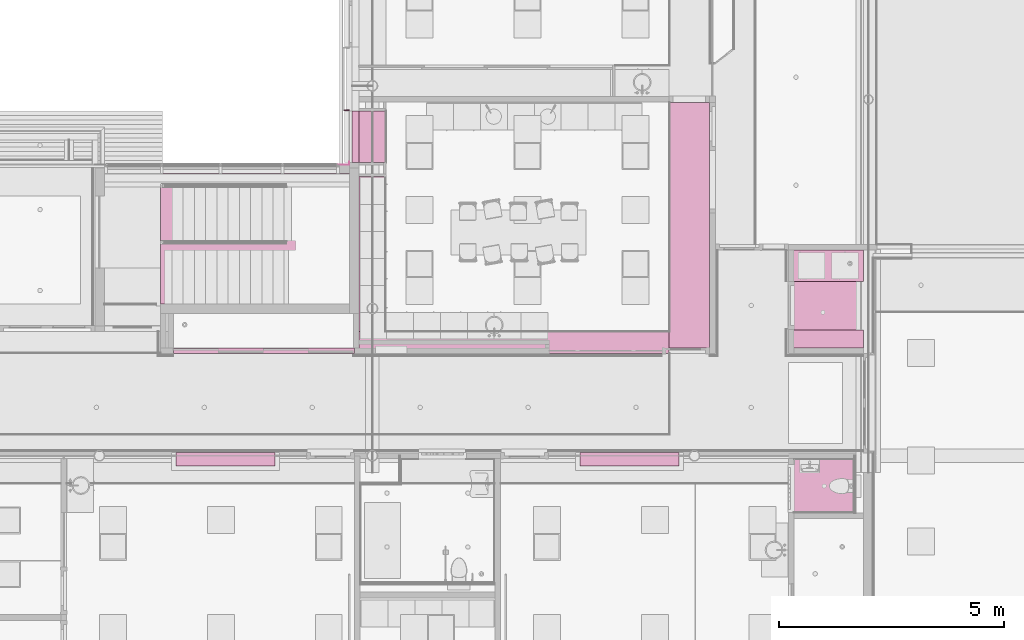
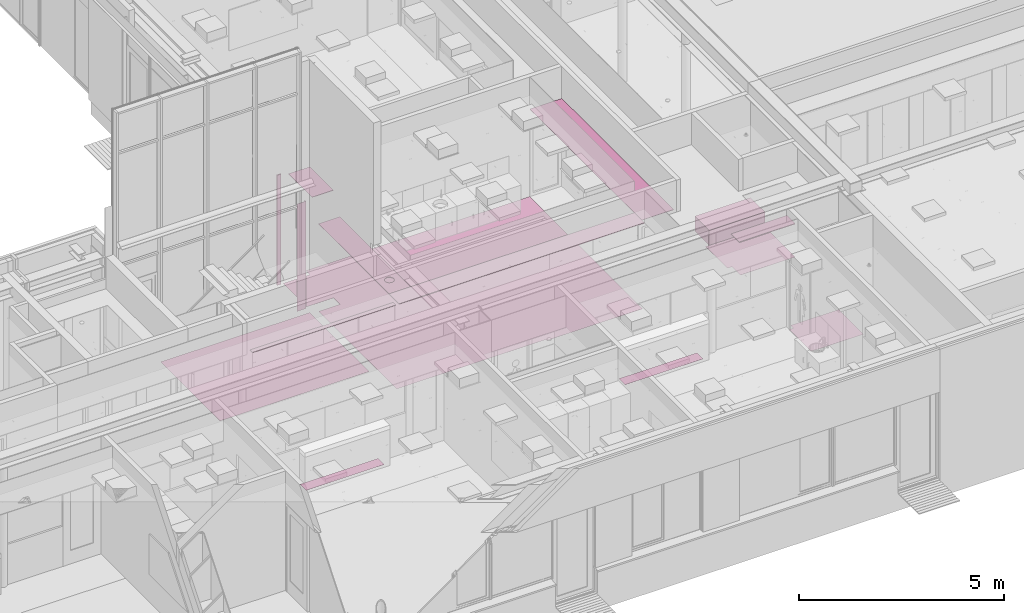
# One storey, part 319 of 347: 17 furnishings.
"""IFC2X3 building model written with IfcOpenShell, lengths in millimetres."""

from ifc_helpers import new_model, entity, si_unit, converted_unit, derived_unit, money_unit, direction, frame, origin_with_axes, place, context, subcontext, project, spatial, faceted_brep, material, type_object, element, save


model = new_model("IFC2X3")

# Units and contexts
model_context = context("Model", 3, precision=0.01, world=origin_with_axes(), true_north=direction((0.0, 1.0)))
plan_context = context("Plan", 3, precision=0.01, world=origin_with_axes(), true_north=direction((0.0, 1.0)))
body_context = subcontext(model_context, "Body", "Model", "MODEL_VIEW")
ifc_project = project(units=[si_unit("LENGTHUNIT", "METRE", prefix="MILLI"), si_unit("AREAUNIT", "SQUARE_METRE"), si_unit("VOLUMEUNIT", "CUBIC_METRE"), converted_unit("PLANEANGLEUNIT", "DEGREE", entity("IfcPlaneAngleMeasure", 0.0174532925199), si_unit("PLANEANGLEUNIT", "RADIAN"), dimensions=[0, 0, 0, 0, 0, 0, 0]), money_unit("EUR"), converted_unit("TIMEUNIT", "Year", entity("IfcTimeMeasure", 31556926.0), si_unit("TIMEUNIT", "SECOND"), dimensions=[0, 0, 1, 0, 0, 0, 0]), si_unit("MASSUNIT", "GRAM", prefix="KILO"), si_unit("THERMODYNAMICTEMPERATUREUNIT", "DEGREE_CELSIUS"), si_unit("LUMINOUSINTENSITYUNIT", "LUMEN"), si_unit("ENERGYUNIT", "JOULE", prefix="MEGA"), derived_unit("THERMALCONDUCTANCEUNIT", [(si_unit("POWERUNIT", "WATT"), 1), (si_unit("LENGTHUNIT", "METRE"), -1), (si_unit("THERMODYNAMICTEMPERATUREUNIT", "KELVIN"), -1)]), derived_unit("SPECIFICHEATCAPACITYUNIT", [(si_unit("ENERGYUNIT", "JOULE"), 1), (si_unit("MASSUNIT", "GRAM", prefix="KILO"), -1), (si_unit("THERMODYNAMICTEMPERATUREUNIT", "KELVIN"), -1)]), derived_unit("MASSDENSITYUNIT", [(si_unit("MASSUNIT", "GRAM", prefix="KILO"), 1), (si_unit("VOLUMEUNIT", "CUBIC_METRE"), -1)])], contexts=[model_context, plan_context])

# Site, building, storey
site_placement = place(None, origin_with_axes())
site = spatial("IfcSite", under=ifc_project, at=site_placement, Name="Site", CompositionType="ELEMENT")
building_placement = place(site_placement, origin_with_axes())
building = spatial("IfcBuilding", under=site, at=building_placement, Name="Naam gebouw", CompositionType="ELEMENT")
storey_placement = place(building_placement, origin_with_axes())
storey = spatial("IfcBuildingStorey", under=building, at=storey_placement, Name="begane grond", CompositionType="ELEMENT", Elevation=0.0)

# Furnishings
ifc_material_1 = material(Name="ALG - LICHTE SCHEIDINGSWAND")
furniture_type_1 = type_object("IfcFurnitureType", Name="44 koof plaf 50", AssemblyPlace="NOTDEFINED")
furnishing_1_placement = place(storey_placement, frame((20150.0, 14399.9999378, 2600.0), z_axis=(0.0, 0.0, 1.0), x_axis=(1.0, 0.0, 0.0)))
element("IfcFurnishingElement", 1, at=furnishing_1_placement, inside=storey, type_object=furniture_type_1, material=ifc_material_1, Name="72_75 vaste inrichting", ObjectType="SHELF", context=body_context, shape_type="Brep", body=[
    faceted_brep([(0.0, 0.0, 12.0), (0.0, 0.0, 0.0), (4025.0, 0.0, 0.0), (4025.0, 0.0, 12.0), (0.0, 125.000062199, 12.0), (0.0, 125.000062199, 0.0), (4025.0, 125.000062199, 0.0), (4025.0, 125.000062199, 12.0)], [[[0, 1, 2, 3]], [[4, 5, 1, 0]], [[2, 1, 5, 6]], [[3, 2, 6, 7]], [[4, 0, 3, 7]], [[7, 6, 5, 4]]]),
])
furnishing_2_placement = place(storey_placement, frame((24275.0, 14400.0, 2600.0), z_axis=(0.0, 0.0, 1.0), x_axis=(1.0, 0.0, 0.0)))
element("IfcFurnishingElement", 2, at=furnishing_2_placement, inside=storey, type_object=furniture_type_1, material=ifc_material_1, Name="72_75 vaste inrichting", ObjectType="SHELF", context=body_context, shape_type="Brep", body=[
    faceted_brep([(0.0, 0.0, 12.0), (0.0, 0.0, 0.0), (6900.0, 0.0, 0.0), (6900.0, 0.0, 12.0), (8.19562728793e-06, 490.000094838, 12.0), (8.19562728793e-06, 490.000094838, 0.0), (6900.0, 490.000094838, 0.0), (6900.0, 490.000094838, 12.0)], [[[0, 1, 2, 3]], [[4, 5, 1, 0]], [[2, 1, 5, 6]], [[3, 2, 6, 7]], [[4, 0, 3, 7]], [[7, 6, 5, 4]]]),
])
furnishing_3_placement = place(storey_placement, frame((24275.0000082, 18645.0, 3200.0), z_axis=(0.0, 0.0, 1.0), x_axis=(1.0, 0.0, 0.0)))
element("IfcFurnishingElement", 3, at=furnishing_3_placement, inside=storey, type_object=furniture_type_1, material=ifc_material_1, Name="72_75 vaste inrichting", ObjectType="SHELF", context=body_context, shape_type="Brep", body=[
    faceted_brep([(0.0, 0.0, 12.0), (0.0, 0.0, 0.0), (599.999991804, 0.0, 0.0), (599.999991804, 0.0, 12.0), (0.0, 1150.0, 12.0), (0.0, 1150.0, 0.0), (599.999991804, 1150.0, 0.0), (599.999991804, 1150.0, 12.0)], [[[0, 1, 2, 3]], [[4, 5, 1, 0]], [[2, 1, 5, 6]], [[3, 2, 6, 7]], [[4, 0, 3, 7]], [[7, 6, 5, 4]]]),
])
furnishing_4_placement = place(storey_placement, frame((31175.0, 19980.5, 2600.0), z_axis=(0.0, 0.0, 1.0), x_axis=(1.0, 0.0, 0.0)))
element("IfcFurnishingElement", 4, at=furnishing_4_placement, inside=storey, type_object=furniture_type_1, material=ifc_material_1, Name="72_75 vaste inrichting", ObjectType="SHELF", context=body_context, shape_type="Brep", body=[
    faceted_brep([(0.0, 0.0, 12.0), (0.0, 0.0, 0.0), (0.0, -5455.5, 0.0), (0.0, -5455.5, 12.0), (900.0, 0.0, 12.0), (900.0, 0.0, 0.0), (900.0, -5455.5, 0.0), (900.0, -5455.5, 12.0)], [[[0, 1, 2, 3]], [[4, 5, 1, 0]], [[2, 1, 5, 6]], [[3, 2, 6, 7]], [[4, 0, 3, 7]], [[7, 6, 5, 4]]]),
])
furnishing_5_placement = place(storey_placement, frame((24275.0, 14890.0000948, 2600.0), z_axis=(0.0, 0.0, 1.0), x_axis=(1.0, 0.0, 0.0)))
element("IfcFurnishingElement", 5, at=furnishing_5_placement, inside=storey, type_object=furniture_type_1, material=ifc_material_1, Name="72_75 vaste inrichting", ObjectType="SHELF", context=body_context, shape_type="Brep", body=[
    faceted_brep([(600.0, 3444.99990516, 0.0), (600.0, 0.0, 0.0), (0.0, 0.0, 0.0), (0.0, 3444.99990516, 0.0), (395.578898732, 433.778276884, 0.0), (410.143444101, 456.957618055, 0.0), (419.184937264, 482.796720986, 0.0), (422.25, 509.999905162, 0.0), (419.184937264, 537.203089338, 0.0), (410.143444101, 563.042192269, 0.0), (395.578898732, 586.221533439, 0.0), (376.221628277, 605.578803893, 0.0), (353.042287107, 620.143349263, 0.0), (327.203184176, 629.184842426, 0.0), (300.0, 632.249905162, 0.0), (272.796815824, 629.184842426, 0.0), (246.957712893, 620.143349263, 0.0), (223.778371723, 605.578803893, 0.0), (204.421101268, 586.221533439, 0.0), (189.856555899, 563.042192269, 0.0), (180.815062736, 537.203089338, 0.0), (177.75, 509.999905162, 0.0), (180.815062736, 482.796720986, 0.0), (189.856555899, 456.957618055, 0.0), (204.421101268, 433.778276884, 0.0), (223.778371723, 414.42100643, 0.0), (246.957712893, 399.856461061, 0.0), (272.796815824, 390.814967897, 0.0), (300.0, 387.749905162, 0.0), (327.203184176, 390.814967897, 0.0), (353.042287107, 399.856461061, 0.0), (376.221628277, 414.42100643, 0.0), (600.0, 3444.99990516, 12.0), (600.0, 0.0, 12.0), (0.0, 0.0, 12.0), (0.0, 3444.99990516, 12.0), (395.578898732, 433.778276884, 12.0), (410.143444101, 456.957618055, 12.0), (419.184937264, 482.796720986, 12.0), (422.25, 509.999905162, 12.0), (419.184937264, 537.203089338, 12.0), (410.143444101, 563.042192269, 12.0), (395.578898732, 586.221533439, 12.0), (376.221628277, 605.578803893, 12.0), (353.042287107, 620.143349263, 12.0), (327.203184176, 629.184842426, 12.0), (300.0, 632.249905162, 12.0), (272.796815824, 629.184842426, 12.0), (246.957712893, 620.143349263, 12.0), (223.778371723, 605.578803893, 12.0), (204.421101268, 586.221533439, 12.0), (189.856555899, 563.042192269, 12.0), (180.815062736, 537.203089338, 12.0), (177.75, 509.999905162, 12.0), (180.815062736, 482.796720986, 12.0), (189.856555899, 456.957618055, 12.0), (204.421101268, 433.778276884, 12.0), (223.778371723, 414.42100643, 12.0), (246.957712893, 399.856461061, 12.0), (272.796815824, 390.814967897, 12.0), (300.0, 387.749905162, 12.0), (327.203184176, 390.814967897, 12.0), (353.042287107, 399.856461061, 12.0), (376.221628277, 414.42100643, 12.0)], [[[0, 1, 2, 3], [4, 5, 6, 7, 8, 9, 10, 11, 12, 13, 14, 15, 16, 17, 18, 19, 20, 21, 22, 23, 24, 25, 26, 27, 28, 29, 30, 31]], [[32, 33, 1, 0]], [[33, 34, 2, 1]], [[34, 35, 3, 2]], [[35, 32, 0, 3]], [[4, 36, 37, 5]], [[5, 37, 38, 6]], [[6, 38, 39, 7]], [[7, 39, 40, 8]], [[8, 40, 41, 9]], [[9, 41, 42, 10]], [[10, 42, 43, 11]], [[11, 43, 44, 12]], [[12, 44, 45, 13]], [[13, 45, 46, 14]], [[14, 46, 47, 15]], [[15, 47, 48, 16]], [[16, 48, 49, 17]], [[17, 49, 50, 18]], [[18, 50, 51, 19]], [[19, 51, 52, 20]], [[20, 52, 53, 21]], [[21, 53, 54, 22]], [[22, 54, 55, 23]], [[23, 55, 56, 24]], [[24, 56, 57, 25]], [[25, 57, 58, 26]], [[26, 58, 59, 27]], [[27, 59, 60, 28]], [[28, 60, 61, 29]], [[29, 61, 62, 30]], [[30, 62, 63, 31]], [[31, 63, 36, 4]], [[32, 35, 34, 33], [42, 41, 40, 39, 38, 37, 36, 63, 62, 61, 60, 59, 58, 57, 56, 55, 54, 53, 52, 51, 50, 49, 48, 47, 46, 45, 44, 43]]]),
])
ifc_material_2 = material(Name="Hout - Spaanplaat")
furniture_type_2 = type_object("IfcFurnitureType", Name="Hout - Spaanplaat 20", AssemblyPlace="NOTDEFINED")
furnishing_6_placement = place(storey_placement, frame((33925.0, 14525.0, 1000.0), z_axis=(0.0, 0.0, 1.0), x_axis=(1.0, 0.0, 0.0)))
element("IfcFurnishingElement", 6, at=furnishing_6_placement, inside=storey, type_object=furniture_type_2, material=ifc_material_2, Name="72_72 vaste inrichting", ObjectType="SHELF", context=body_context, shape_type="Brep", body=[
    faceted_brep([(0.0, 0.0, 0.0), (0.0, 0.0, -20.0), (1570.0, 0.0, -20.0), (1570.0, 0.0, 0.0), (0.0, 400.0, 0.0), (0.0, 400.0, -20.0), (1570.0, 400.0, -20.0), (1570.0, 400.0, 0.0)], [[[0, 1, 2, 3]], [[4, 5, 1, 0]], [[2, 1, 5, 6]], [[3, 2, 6, 7]], [[4, 0, 3, 7]], [[7, 6, 5, 4]]]),
])
ifc_material_3 = material(Name="43 fresco Barbados 3858")
furniture_type_3 = type_object("IfcFurnitureType", Name="43 fresco Barbados 3858 2", AssemblyPlace="NOTDEFINED")
furnishing_7_placement = place(storey_placement, frame((24125.0000225, 18644.9999278, 0.0), z_axis=(0.0, 0.0, 1.0), x_axis=(1.0, 0.0, 0.0)))
element("IfcFurnishingElement", 7, at=furnishing_7_placement, inside=storey, type_object=furniture_type_3, material=ifc_material_3, Name="72_43 marmoleum", ObjectType="SHELF", context=body_context, shape_type="Brep", body=[
    faceted_brep([(0.0, 0.0, 2.0), (0.0, 0.0, 0.0), (749.99999389, 0.0, 0.0), (749.99999389, 0.0, 2.0), (0.0, 1150.00004666, 2.0), (0.0, 1150.00004666, 0.0), (749.99999389, 1150.00004666, 0.0), (749.99999389, 1342.50010882, 0.0), (7049.99998458, 1342.50010882, 0.0), (7049.99998458, -4166.99995512, 0.0), (4349.99994355, -4167.00174103, 0.0), (4349.99994355, -4119.99995523, 0.0), (150.000019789, -4119.99995523, 0.0), (149.999977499, -309.999927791, 0.0), (749.99999389, -309.999927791, 0.0), (749.99999389, -309.999927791, 2.0), (149.999977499, -309.999927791, 2.0), (150.000019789, -4119.99995523, 2.0), (4349.99994355, -4119.99995523, 2.0), (4349.99994355, -4167.00174103, 2.0), (7049.99998458, -4166.99995512, 2.0), (7049.99998458, 1342.50010882, 2.0), (749.99999389, 1342.50010882, 2.0), (749.99999389, 1150.00004666, 2.0)], [[[0, 1, 2, 3]], [[4, 5, 1, 0]], [[2, 1, 5, 6, 7, 8, 9, 10, 11, 12, 13, 14]], [[3, 2, 14, 15]], [[4, 0, 3, 15, 16, 17, 18, 19, 20, 21, 22, 23]], [[23, 6, 5, 4]], [[22, 7, 6, 23]], [[21, 8, 7, 22]], [[20, 9, 8, 21]], [[19, 10, 9, 20]], [[18, 11, 10, 19]], [[17, 12, 11, 18]], [[16, 13, 12, 17]], [[15, 14, 13, 16]]]),
])
furnishing_8_placement = place(storey_placement, frame((22411.0000134, 12194.4999884, 0.0), z_axis=(0.0, 0.0, 1.0), x_axis=(1.0, 0.0, 0.0)))
element("IfcFurnishingElement", 8, at=furnishing_8_placement, inside=storey, type_object=furniture_type_3, material=ifc_material_3, Name="72_43 marmoleum", ObjectType="SHELF", context=body_context, shape_type="Brep", body=[
    faceted_brep([(0.0, 0.0, 2.0), (0.0, 0.0, 0.0), (-2200.00001341, 0.0, 0.0), (-2200.00001341, 0.0, 2.0), (0.0, -300.000001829, 2.0), (0.0, -300.000001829, 0.0), (-2200.00001341, -300.000001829, 0.0), (-2200.00001341, -300.000001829, 2.0)], [[[0, 1, 2, 3]], [[4, 5, 1, 0]], [[2, 1, 5, 6]], [[3, 2, 6, 7]], [[4, 0, 3, 7]], [[7, 6, 5, 4]]]),
])
furnishing_9_placement = place(storey_placement, frame((31389.0000134, 12194.5000212, 0.0), z_axis=(0.0, 0.0, 1.0), x_axis=(1.0, 0.0, 0.0)))
element("IfcFurnishingElement", 9, at=furnishing_9_placement, inside=storey, type_object=furniture_type_3, material=ifc_material_3, Name="72_44 marmoleum", ObjectType="SHELF", context=body_context, shape_type="Brep", body=[
    faceted_brep([(0.0, 0.0, 2.0), (0.0, 0.0, 0.0), (-2200.00001341, 0.0, 0.0), (-2200.00001341, 0.0, 2.0), (0.0, -300.000034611, 2.0), (0.0, -300.000034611, 0.0), (-2200.00001341, -300.000034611, 0.0), (-2200.00001341, -300.000034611, 2.0)], [[[0, 1, 2, 3]], [[4, 5, 1, 0]], [[2, 1, 5, 6]], [[3, 2, 6, 7]], [[4, 0, 3, 7]], [[7, 6, 5, 4]]]),
])
furnishing_10_placement = place(storey_placement, frame((20211.0, 11894.4999866, 0.0), z_axis=(0.0, 0.0, 1.0), x_axis=(1.0, 0.0, 0.0)))
element("IfcFurnishingElement", 10, at=furnishing_10_placement, inside=storey, type_object=furniture_type_3, material=ifc_material_3, Name="72_43 marmoleum", ObjectType="SHELF", context=body_context, shape_type="Brep", body=[
    faceted_brep([(0.0, 0.0, 2.0), (0.0, 0.0, 0.0), (2200.00001341, 0.0, 0.0), (2200.00001341, 0.0, 2.0), (0.0, 300.000001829, 2.0), (0.0, 300.000001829, 0.0), (2200.00001341, 300.000001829, 0.0), (2200.00001341, 300.000001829, 2.0)], [[[0, 1, 2, 3]], [[4, 5, 1, 0]], [[2, 1, 5, 6]], [[3, 2, 6, 7]], [[4, 0, 3, 7]], [[7, 6, 5, 4]]]),
])
furnishing_11_placement = place(storey_placement, frame((29189.0, 11894.4999866, 0.0), z_axis=(0.0, 0.0, 1.0), x_axis=(1.0, 0.0, 0.0)))
element("IfcFurnishingElement", 11, at=furnishing_11_placement, inside=storey, type_object=furniture_type_3, material=ifc_material_3, Name="72_44 marmoleum", ObjectType="SHELF", context=body_context, shape_type="Brep", body=[
    faceted_brep([(0.0, 0.0, 2.0), (0.0, 0.0, 0.0), (2200.00001341, 0.0, 0.0), (2200.00001341, 0.0, 2.0), (0.0, 300.000034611, 2.0), (0.0, 300.000034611, 0.0), (2200.00001341, 300.000034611, 0.0), (2200.00001341, 300.000034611, 2.0)], [[[0, 1, 2, 3]], [[4, 5, 1, 0]], [[2, 1, 5, 6]], [[3, 2, 6, 7]], [[4, 0, 3, 7]], [[7, 6, 5, 4]]]),
])
ifc_material_4 = material(Name="24 Hout gevelbekleding Lariks master")
furniture_type_4 = type_object("IfcFurnitureType", Name="24 Hout gevelbekleding Lariks master 3280", AssemblyPlace="NOTDEFINED")
furnishing_12_placement = place(storey_placement, frame((23950.0000127, 19795.0, 0.0), z_axis=(0.0, 0.0, 1.0), x_axis=(1.0, 0.0, 0.0)))
element("IfcFurnishingElement", 12, at=furnishing_12_placement, inside=storey, type_object=furniture_type_4, material=ifc_material_4, Name="72_74 vaste inrichting", ObjectType="SHELF", context=body_context, shape_type="Brep", body=[
    faceted_brep([(0.0, 0.0, 3279.81793414), (0.0, 0.0, 0.0), (113.000123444, 0.0, 0.0), (113.000123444, 0.0, 3279.81793414), (1.66893094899e-05, 25.0, 3279.81793414), (1.66893094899e-05, 25.0, 0.0), (113.000123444, 25.0, 0.0), (113.000123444, 25.0, 3279.81793414)], [[[0, 1, 2, 3]], [[4, 5, 1, 0]], [[2, 1, 5, 6]], [[3, 2, 6, 7]], [[4, 0, 3, 7]], [[7, 6, 5, 4]]]),
])
furniture_type_5 = type_object("IfcFurnitureType", Name="ALG - LICHTE SCHEIDINGSWAND 450", AssemblyPlace="NOTDEFINED")
furnishing_13_placement = place(storey_placement, frame((33925.0, 16000.0, 450.0), z_axis=(0.0, 0.0, 1.0), x_axis=(1.0, 0.0, 0.0)))
element("IfcFurnishingElement", 13, at=furnishing_13_placement, inside=storey, type_object=furniture_type_5, material=ifc_material_1, Name="72_72 vaste inrichting", ObjectType="SHELF", context=body_context, shape_type="Brep", body=[
    faceted_brep([(0.0, 0.0, 0.0), (0.0, 0.0, -450.0), (1570.0, 0.0, -450.0), (1570.0, 0.0, 0.0), (0.0, 700.0, 0.0), (0.0, 700.0, -450.0), (1570.0, 700.0, -450.0), (1570.0, 700.0, 0.0)], [[[0, 1, 2, 3]], [[4, 5, 1, 0]], [[2, 1, 5, 6]], [[3, 2, 6, 7]], [[4, 0, 3, 7]], [[7, 6, 5, 4]]]),
])
furniture_type_6 = type_object("IfcFurnitureType", Name="24 Hout gevelbekleding Lariks master 3200", AssemblyPlace="NOTDEFINED")
furnishing_14_placement = place(storey_placement, frame((23819.9999999, 18592.999998, 0.0), z_axis=(0.0, 0.0, 1.0), x_axis=(1.0, 0.0, 0.0)))
element("IfcFurnishingElement", 14, at=furnishing_14_placement, inside=storey, type_object=furniture_type_6, material=ifc_material_4, Name="72_74 vaste inrichting", ObjectType="SHELF", context=body_context, shape_type="Brep", body=[
    faceted_brep([(0.0, 0.0, 3200.0), (0.0, 0.0, 0.0), (245.000000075, 0.0, 0.0), (245.000000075, 0.0, 3200.0), (0.0, 2.00000203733, 3200.0), (0.0, 2.00000203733, 0.0), (243.000000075, 2.00000203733, 0.0), (243.000000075, 67.0000040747, 0.0), (245.000000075, 67.0000040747, 0.0), (245.000000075, 67.0000040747, 3200.0), (243.000000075, 67.0000040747, 3200.0), (243.000000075, 2.00000203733, 3200.0)], [[[0, 1, 2, 3]], [[4, 5, 1, 0]], [[2, 1, 5, 6, 7, 8]], [[3, 2, 8, 9]], [[4, 0, 3, 9, 10, 11]], [[11, 6, 5, 4]], [[10, 7, 6, 11]], [[9, 8, 7, 10]]]),
])
ifc_material_5 = material(Name="48 vloeivloer Bolidt")
furniture_type_7 = type_object("IfcFurnitureType", Name="48 vloeivloer Bolidt 2", AssemblyPlace="NOTDEFINED")
furnishing_15_placement = place(storey_placement, frame((33825.0, 11926.500008, 0.0), z_axis=(0.0, 0.0, 1.0), x_axis=(1.0, 0.0, 0.0)))
element("IfcFurnishingElement", 15, at=furnishing_15_placement, inside=storey, type_object=furniture_type_7, material=ifc_material_5, Name="72_43 vloeivloer", ObjectType="SHELF", context=body_context, shape_type="Brep", body=[
    faceted_brep([(0.0, 0.0, 2.0), (0.0, 0.0, 0.0), (0.0, -1064.00000939, 0.0), (0.0, -1064.00000939, 2.0), (125.000008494, 0.0, 2.0), (125.000008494, 0.0, 0.0), (125.000008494, 135.999993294, 0.0), (1470.0, 135.999993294, 0.0), (1470.0, -1076.50000805, 0.0), (125.000008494, -1076.50000805, 0.0), (125.000008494, -1064.00000939, 0.0), (125.000008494, -1064.00000939, 2.0), (125.000008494, -1076.50000805, 2.0), (1470.0, -1076.50000805, 2.0), (1470.0, 135.999993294, 2.0), (125.000008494, 135.999993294, 2.0)], [[[0, 1, 2, 3]], [[4, 5, 1, 0]], [[2, 1, 5, 6, 7, 8, 9, 10]], [[3, 2, 10, 11]], [[4, 0, 3, 11, 12, 13, 14, 15]], [[15, 6, 5, 4]], [[14, 7, 6, 15]], [[13, 8, 7, 14]], [[12, 9, 8, 13]], [[11, 10, 9, 12]]]),
])
furnishing_16_placement = place(storey_placement, frame((33950.0000134, 16000.0000156, 0.0), z_axis=(0.0, 0.0, 1.0), x_axis=(1.0, 0.0, 0.0)))
element("IfcFurnishingElement", 16, at=furnishing_16_placement, inside=storey, type_object=furniture_type_7, material=ifc_material_5, Name="72_43 vloeivloer", ObjectType="SHELF", context=body_context, shape_type="Brep", body=[
    faceted_brep([(0.0, 0.0, 2.0), (0.0, 0.0, 0.0), (-125.000013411, 0.0, 0.0), (-125.000013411, 0.0, 2.0), (0.0, 699.999984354, 2.0), (0.0, 699.999984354, 0.0), (1545.00000112, 699.999984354, 0.0), (1545.00000112, -1475.00001565, 0.0), (0.0, -1475.00001565, 0.0), (0.0, -1064.000019, 0.0), (-125.000013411, -1064.000019, 0.0), (-125.000013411, -1064.000019, 2.0), (0.0, -1064.000019, 2.0), (0.0, -1475.00001565, 2.0), (1545.00000112, -1475.00001565, 2.0), (1545.00000112, 699.999984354, 2.0)], [[[0, 1, 2, 3]], [[4, 5, 1, 0]], [[2, 1, 5, 6, 7, 8, 9, 10]], [[3, 2, 10, 11]], [[4, 0, 3, 11, 12, 13, 14, 15]], [[15, 6, 5, 4]], [[14, 7, 6, 15]], [[13, 8, 7, 14]], [[12, 9, 8, 13]], [[11, 10, 9, 12]]]),
])
ifc_material_6 = material(Name="43 Fresco Moonstone 3883")
furniture_type_8 = type_object("IfcFurnitureType", Name="43 Fresco Moonstone 3883 2", AssemblyPlace="NOTDEFINED")
furnishing_17_placement = place(storey_placement, frame((19865.0, 15499.9999906, 0.0), z_axis=(0.0, 0.0, 1.0), x_axis=(1.0, 0.0, 0.0)))
element("IfcFurnishingElement", 17, at=furnishing_17_placement, inside=storey, type_object=furniture_type_8, material=ifc_material_6, Name="72_43 marmoleum", ObjectType="SHELF", context=body_context, shape_type="Brep", body=[
    faceted_brep([(0.0, 0.0, 2.0), (0.0, 0.0, 0.0), (4200.0, 0.0, 0.0), (4200.0, 0.0, 2.0), (0.0, 2900.00000942, 2.0), (0.0, 2900.00000942, 0.0), (4200.0, 2900.00000942, 0.0), (4200.0, 2900.00000942, 2.0)], [[[0, 1, 2, 3]], [[4, 5, 1, 0]], [[2, 1, 5, 6]], [[3, 2, 6, 7]], [[4, 0, 3, 7]], [[7, 6, 5, 4]]]),
])

save(model, "model.ifc")
